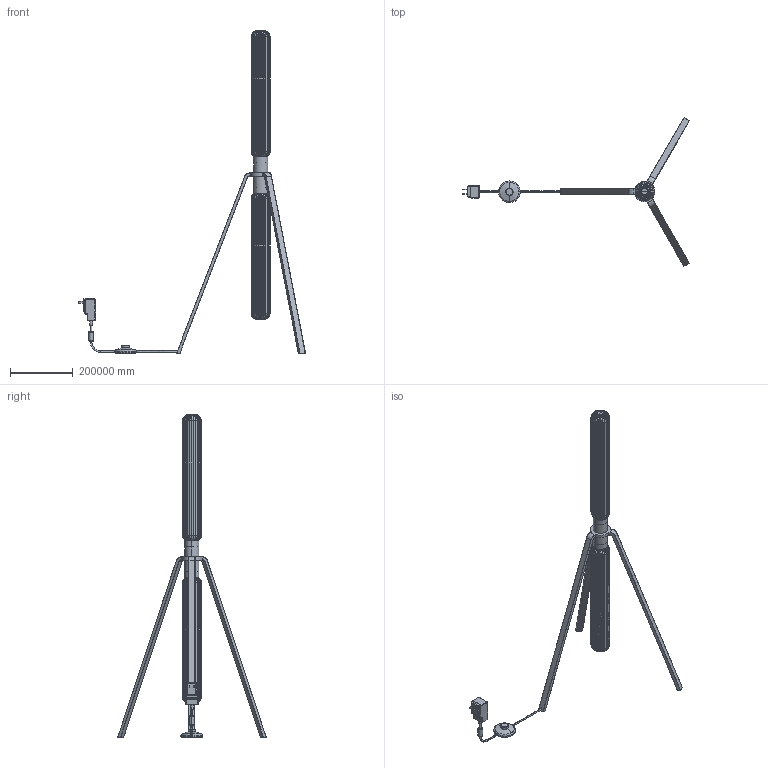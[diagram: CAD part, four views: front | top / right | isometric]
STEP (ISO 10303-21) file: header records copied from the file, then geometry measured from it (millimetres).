
FILE_DESCRIPTION(/* description */ (''),/* implementation_level */ '2;1');
FILE_NAME(/* name */ 'Cipher Floor UL',/* time_stamp */ '2019-01-31T09:14:51+01:00',/* author */ (''),/* organization */ (''),/* preprocessor_version */ 'ST-DEVELOPER v15',/* originating_system */ '',/* authorisation */ '');
FILE_SCHEMA (('AUTOMOTIVE_DESIGN'));
Length unit declared in the file: metre
Products named in the file (3): Document; Glass side; Block 16
Assembly tree (2 placements, depth 3):
  Document
    Glass side
      Block 16
Bounding box: 722290.17 x 472742.72 x 1027494.53 mm (x, y, z)
Volume: 778540127525419.2 mm3; surface area: 504759505590.4 mm2
Topology: 10 solids, 11 shells, 751 faces, 1746 edges, 999 vertices
Faces by surface type: bspline 524, plane 227
Entity records: 36084 total; most frequent: CARTESIAN_POINT 25885, ORIENTED_EDGE 3444, EDGE_CURVE 1740, VERTEX_POINT 999, B_SPLINE_CURVE_WITH_KNOTS 923, EDGE_LOOP 766, ADVANCED_FACE 751, FACE_OUTER_BOUND 751
